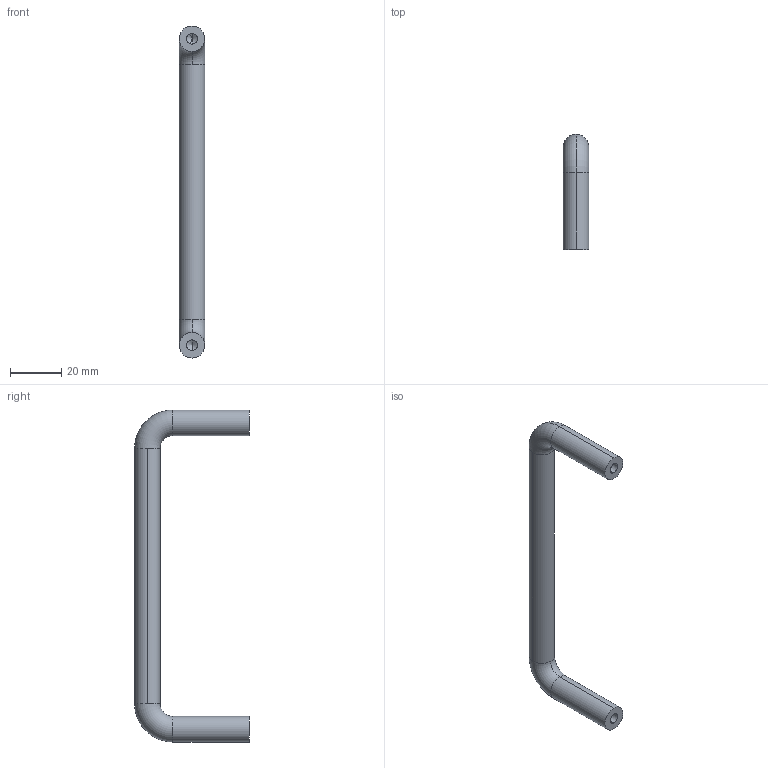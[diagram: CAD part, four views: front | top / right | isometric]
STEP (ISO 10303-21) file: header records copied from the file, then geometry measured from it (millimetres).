
FILE_DESCRIPTION (( 'STEP AP203' ), '1' );
FILE_NAME ('E03-101245.STEP', '2023-04-20T07:36:12', ( '' ), ( '' ), 'SwSTEP 2.0', 'SolidWorks 2021', '' );
FILE_SCHEMA (( 'CONFIG_CONTROL_DESIGN' ));
Length unit declared in the file: millimetre
Products named in the file (1): E03-101245
Bounding box: 10 x 45 x 130 mm (x, y, z)
Volume: 14634.2 mm3; surface area: 6544.7 mm2
Topology: 1 solids, 1 shells, 20 faces, 46 edges, 26 vertices
Faces by surface type: cylinder 10, torus 4, cone 4, plane 2
Entity records: 623 total; most frequent: DIRECTION 112, CARTESIAN_POINT 89, ORIENTED_EDGE 84, AXIS2_PLACEMENT_3D 49, EDGE_CURVE 42, CIRCLE 28, VERTEX_POINT 26, EDGE_LOOP 22
